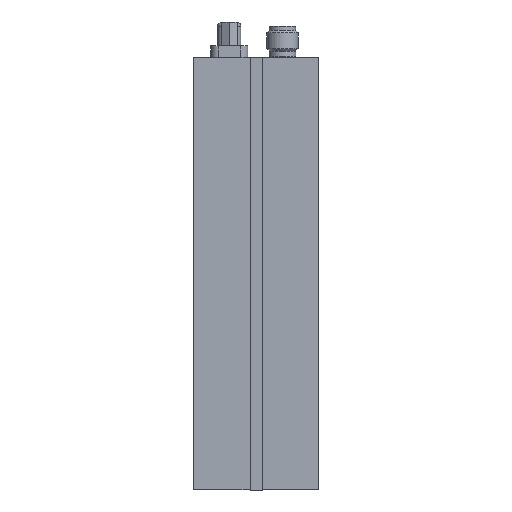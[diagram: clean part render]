
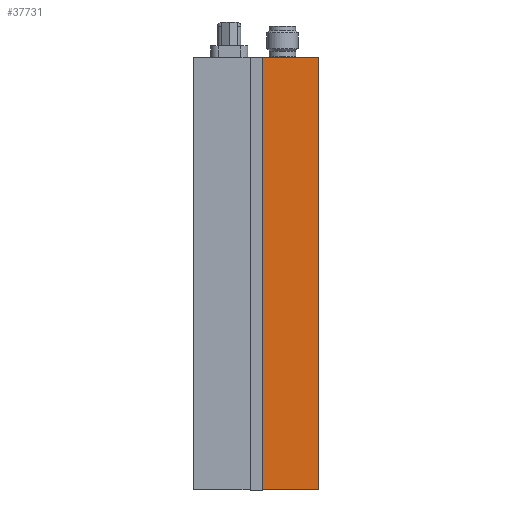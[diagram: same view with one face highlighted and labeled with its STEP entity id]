
A CAD part, left-side view. The second image highlights one B-rep face of the part: STEP entity #37731.
In plain terms, the highlighted planar face has unit normal (-1, 0, 0).
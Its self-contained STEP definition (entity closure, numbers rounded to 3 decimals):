
#731 = EDGE_CURVE ( 'NONE', #3197, #53973, #11678, .T. ) ;
#2979 = LINE ( 'NONE', #9307, #26003 ) ;
#3197 = VERTEX_POINT ( 'NONE', #6342 ) ;
#3503 = DIRECTION ( 'NONE',  ( 0., 0., 1. ) ) ;
#4394 = ORIENTED_EDGE ( 'NONE', *, *, #24382, .F. ) ;
#4942 = CARTESIAN_POINT ( 'NONE',  ( -27.94, 11.354, -43.815 ) ) ;
#5129 = PLANE ( 'NONE',  #15657 ) ;
#6342 = CARTESIAN_POINT ( 'NONE',  ( -27.94, 11.354, -43.815 ) ) ;
#6945 = CARTESIAN_POINT ( 'NONE',  ( -27.94, 11.354, 43.815 ) ) ;
#8862 = DIRECTION ( 'NONE',  ( 0., -1., 0. ) ) ;
#9307 = CARTESIAN_POINT ( 'NONE',  ( -27.94, 0., -43.815 ) ) ;
#11678 = LINE ( 'NONE', #26984, #34694 ) ;
#12004 = VECTOR ( 'NONE', #3503, 1000. ) ;
#13674 = CARTESIAN_POINT ( 'NONE',  ( -27.94, 0., 43.815 ) ) ;
#15583 = LINE ( 'NONE', #6945, #49384 ) ;
#15657 = AXIS2_PLACEMENT_3D ( 'NONE', #4942, #51174, #23669 ) ;
#18022 = CARTESIAN_POINT ( 'NONE',  ( -27.94, 0., -43.815 ) ) ;
#19861 = FACE_OUTER_BOUND ( 'NONE', #43747, .T. ) ;
#23669 = DIRECTION ( 'NONE',  ( 0., 0., -1. ) ) ;
#24382 = EDGE_CURVE ( 'NONE', #41508, #34916, #15583, .T. ) ;
#26003 = VECTOR ( 'NONE', #36837, 1000. ) ;
#26585 = CARTESIAN_POINT ( 'NONE',  ( -27.94, 11.354, 43.815 ) ) ;
#26984 = CARTESIAN_POINT ( 'NONE',  ( -27.94, 11.354, -43.815 ) ) ;
#30027 = DIRECTION ( 'NONE',  ( 0., -1., 0. ) ) ;
#34694 = VECTOR ( 'NONE', #8862, 1000. ) ;
#34916 = VERTEX_POINT ( 'NONE', #13674 ) ;
#36380 = EDGE_CURVE ( 'NONE', #3197, #41508, #48674, .T. ) ;
#36575 = ORIENTED_EDGE ( 'NONE', *, *, #36380, .F. ) ;
#36837 = DIRECTION ( 'NONE',  ( 0., 0., 1. ) ) ;
#37731 = ADVANCED_FACE ( 'NONE', ( #19861 ), #5129, .F. ) ;
#41508 = VERTEX_POINT ( 'NONE', #26585 ) ;
#42794 = EDGE_CURVE ( 'NONE', #53973, #34916, #2979, .T. ) ;
#43747 = EDGE_LOOP ( 'NONE', ( #48736, #4394, #36575, #47453 ) ) ;
#47453 = ORIENTED_EDGE ( 'NONE', *, *, #731, .T. ) ;
#48674 = LINE ( 'NONE', #53942, #12004 ) ;
#48736 = ORIENTED_EDGE ( 'NONE', *, *, #42794, .T. ) ;
#49384 = VECTOR ( 'NONE', #30027, 1000. ) ;
#51174 = DIRECTION ( 'NONE',  ( 1., 0., 0. ) ) ;
#53942 = CARTESIAN_POINT ( 'NONE',  ( -27.94, 11.354, -43.815 ) ) ;
#53973 = VERTEX_POINT ( 'NONE', #18022 ) ;
